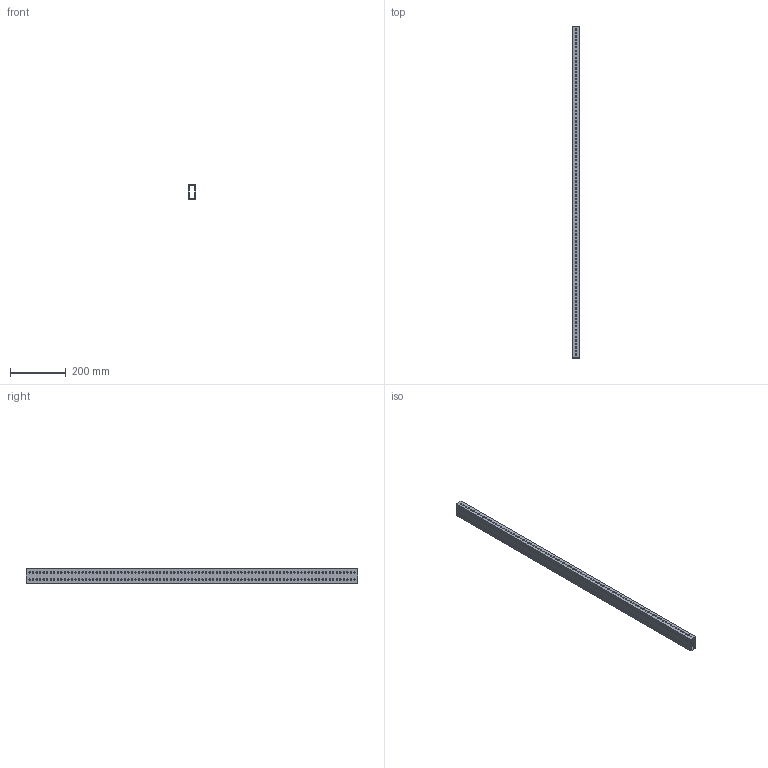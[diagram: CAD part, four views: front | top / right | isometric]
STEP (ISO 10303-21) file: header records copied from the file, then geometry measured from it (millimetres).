
FILE_DESCRIPTION(/* description */ (''),/* implementation_level */ '2;1');
FILE_NAME(/* name */ 'SR-TUBE-2X1-0.125-GRID v1.step',/* time_stamp */ '2025-04-30T16:11:18-05:00',/* author */ (''),/* organization */ (''),/* preprocessor_version */ 'ST-DEVELOPER v20.1',/* originating_system */ 'Autodesk Translation Framework v14.4.0.0',/* authorisation */ '');
FILE_SCHEMA (('AUTOMOTIVE_DESIGN { 1 0 10303 214 3 1 1 }'));
Length unit declared in the file: inch
Products named in the file (1): FusionComponent
Bounding box: 25.4 x 1193.8 x 50.8 mm (x, y, z)
Volume: 501005.7 mm3; surface area: 335286.1 mm2
Topology: 1 solids, 1 shells, 572 faces, 1710 edges, 1140 vertices
Faces by surface type: cylinder 562, plane 10
Full cylindrical faces by diameter (mm): 5 x558
Entity records: 22229 total; most frequent: DIRECTION 3980, CARTESIAN_POINT 3423, ORIENTED_EDGE 3420, EDGE_CURVE 1710, AXIS2_PLACEMENT_3D 1697, EDGE_LOOP 1690, VERTEX_POINT 1140, CIRCLE 1124
